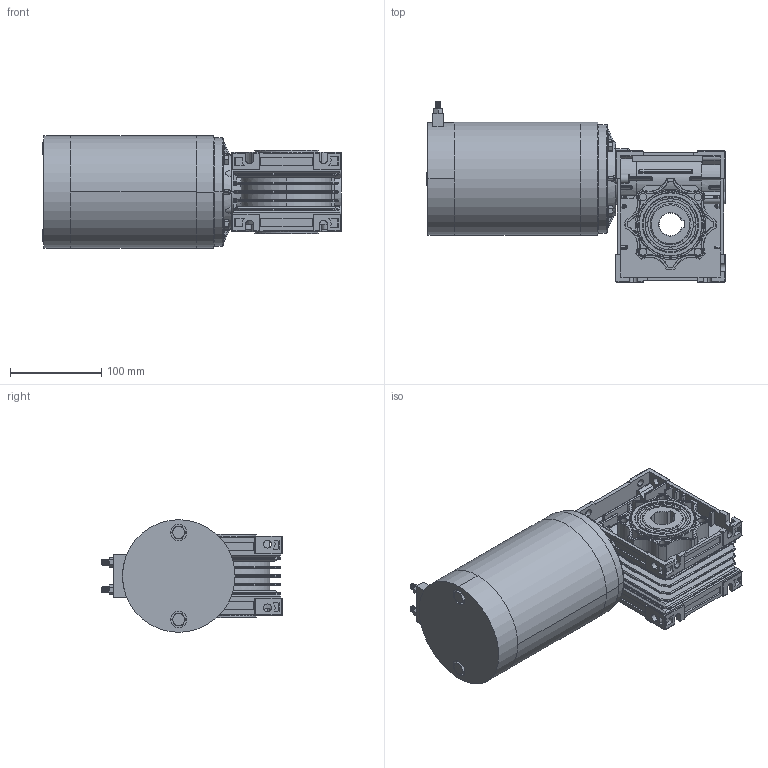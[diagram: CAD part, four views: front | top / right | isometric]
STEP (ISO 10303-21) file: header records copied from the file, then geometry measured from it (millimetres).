
FILE_DESCRIPTION (( 'STEP AP214' ), '1' );
FILE_NAME ('WG1188-050-hallow shaft.STEP', '2019-11-19T11:44:51', ( 'Sky123.Org' ), ( 'Sky123.Org' ), 'SwSTEP 2.0', 'SolidWorks 2015', '' );
FILE_SCHEMA (( 'AUTOMOTIVE_DESIGN' ));
Length unit declared in the file: millimetre
Products named in the file (5): M1188R; hex set screw cone point_din_DIN 564 - M10 x 20 --- N; WG1188-050-hallow shaft; WG050 翔瑋-NEW
Assembly tree (5 placements, depth 3):
  WG1188-050-hallow shaft
    M1188R
      M1188R
      hex set screw cone point_din_DIN 564 - M10 x 20 --- N  x2
    WG050 翔瑋-NEW
Bounding box: 327.37 x 198 x 123.5 mm (x, y, z)
Volume: 3327376.8 mm3; surface area: 373842.9 mm2
Topology: 10 solids, 45 shells, 2283 faces, 5699 edges, 3498 vertices
Faces by surface type: cylinder 942, plane 931, torus 197, sphere 113, bspline 60, cone 40
Entity records: 80132 total; most frequent: CARTESIAN_POINT 22741, DIRECTION 11726, ORIENTED_EDGE 11108, EDGE_CURVE 5554, AXIS2_PLACEMENT_3D 4460, VERTEX_POINT 3463, VECTOR 2806, LINE 2806
